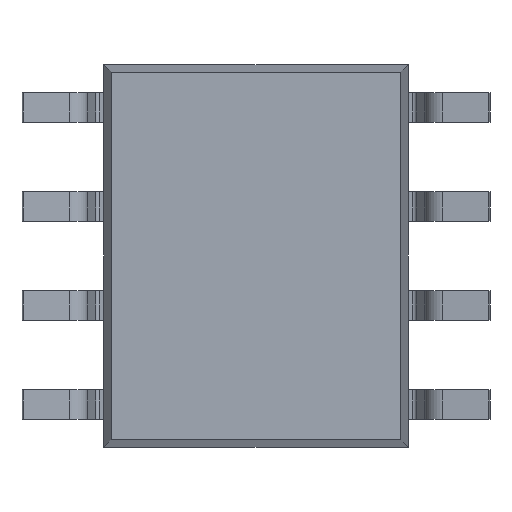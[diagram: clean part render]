
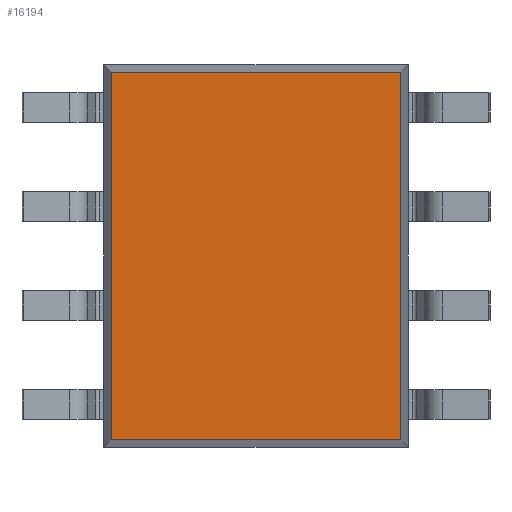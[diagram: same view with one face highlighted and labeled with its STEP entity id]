
A CAD part, front view. The second image highlights one B-rep face of the part: STEP entity #16194.
In plain terms, the highlighted planar face has unit normal (0, -1, 0).
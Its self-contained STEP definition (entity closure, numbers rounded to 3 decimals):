
#2094=FACE_OUTER_BOUND('',#2981,.T.);
#2981=EDGE_LOOP('',(#14870,#14871,#14872,#14873));
#4578=LINE('',#29604,#6180);
#4581=LINE('',#29609,#6183);
#4583=LINE('',#29613,#6185);
#4584=LINE('',#29615,#6186);
#6180=VECTOR('',#19509,1000.);
#6183=VECTOR('',#19514,1000.);
#6185=VECTOR('',#19518,1000.);
#6186=VECTOR('',#19521,1000.);
#7761=VERTEX_POINT('',#29601);
#7762=VERTEX_POINT('',#29603);
#7763=VERTEX_POINT('',#29607);
#7764=VERTEX_POINT('',#29611);
#10129=EDGE_CURVE('',#7762,#7761,#4578,.T.);
#10132=EDGE_CURVE('',#7761,#7763,#4581,.T.);
#10134=EDGE_CURVE('',#7763,#7764,#4583,.T.);
#10135=EDGE_CURVE('',#7764,#7762,#4584,.T.);
#14870=ORIENTED_EDGE('',*,*,#10129,.T.);
#14871=ORIENTED_EDGE('',*,*,#10132,.T.);
#14872=ORIENTED_EDGE('',*,*,#10134,.T.);
#14873=ORIENTED_EDGE('',*,*,#10135,.T.);
#15345=PLANE('',#16784);
#16194=ADVANCED_FACE('',(#2094),#15345,.T.);
#16784=AXIS2_PLACEMENT_3D('',#29616,#19522,#19523);
#19509=DIRECTION('',(1.,0.,0.));
#19514=DIRECTION('',(0.,0.,1.));
#19518=DIRECTION('',(-1.,0.,0.));
#19521=DIRECTION('',(0.,0.,-1.));
#19522=DIRECTION('center_axis',(0.,-1.,0.));
#19523=DIRECTION('ref_axis',(0.,0.,-1.));
#29601=CARTESIAN_POINT('',(1.859,0.25,-2.359));
#29603=CARTESIAN_POINT('',(-1.859,0.25,-2.359));
#29604=CARTESIAN_POINT('',(-1.95,0.25,-2.359));
#29607=CARTESIAN_POINT('',(1.859,0.25,2.359));
#29609=CARTESIAN_POINT('',(1.859,0.25,-2.45));
#29611=CARTESIAN_POINT('',(-1.859,0.25,2.359));
#29613=CARTESIAN_POINT('',(1.95,0.25,2.359));
#29615=CARTESIAN_POINT('',(-1.859,0.25,2.45));
#29616=CARTESIAN_POINT('Origin',(0.,0.25,0.));
